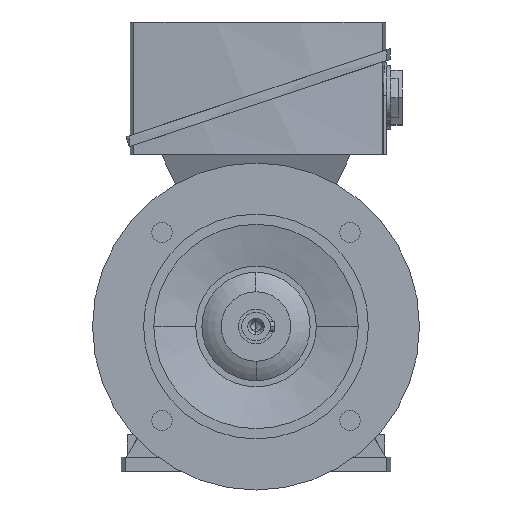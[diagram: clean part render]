
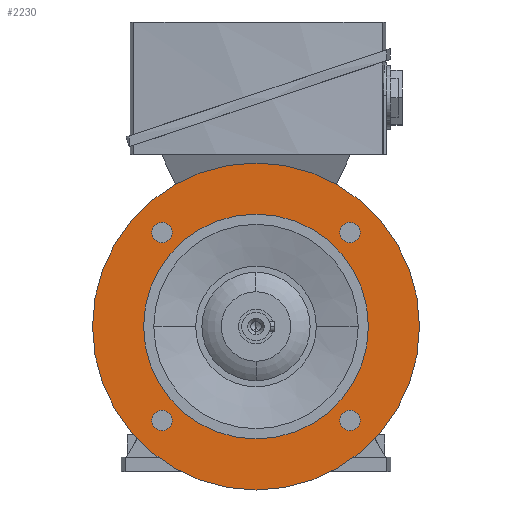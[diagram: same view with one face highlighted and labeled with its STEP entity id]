
A CAD part, left-side view. The second image highlights one B-rep face of the part: STEP entity #2230.
In plain terms, the highlighted planar face has unit normal (-1, 0, 0).
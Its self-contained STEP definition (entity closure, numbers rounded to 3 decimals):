
#2230=ADVANCED_FACE('',(#4529,#4530,#4531,#4532,#4533,#4534),#4535,.T.);
#4529=FACE_BOUND('',#6826,.T.);
#4530=FACE_BOUND('',#6827,.T.);
#4531=FACE_BOUND('',#6828,.T.);
#4532=FACE_BOUND('',#6829,.T.);
#4533=FACE_OUTER_BOUND('',#6830,.T.);
#4534=FACE_BOUND('',#6831,.T.);
#4535=PLANE('',#6832);
#6826=EDGE_LOOP('',(#13738,#13739));
#6827=EDGE_LOOP('',(#13740,#13741));
#6828=EDGE_LOOP('',(#13742,#13743));
#6829=EDGE_LOOP('',(#13744,#13745));
#6830=EDGE_LOOP('',(#13746,#13747));
#6831=EDGE_LOOP('',(#13748,#13749));
#6832=AXIS2_PLACEMENT_3D('',#13750,#13751,#13752);
#13738=ORIENTED_EDGE('',*,*,#16457,.T.);
#13739=ORIENTED_EDGE('',*,*,#13813,.T.);
#13740=ORIENTED_EDGE('',*,*,#16459,.T.);
#13741=ORIENTED_EDGE('',*,*,#13808,.T.);
#13742=ORIENTED_EDGE('',*,*,#16461,.T.);
#13743=ORIENTED_EDGE('',*,*,#13803,.T.);
#13744=ORIENTED_EDGE('',*,*,#16463,.T.);
#13745=ORIENTED_EDGE('',*,*,#13798,.T.);
#13746=ORIENTED_EDGE('',*,*,#13772,.F.);
#13747=ORIENTED_EDGE('',*,*,#16494,.F.);
#13748=ORIENTED_EDGE('',*,*,#13779,.T.);
#13749=ORIENTED_EDGE('',*,*,#16492,.T.);
#13750=CARTESIAN_POINT('',(-23.0,67.5,0.0));
#13751=DIRECTION('',(-1.0,0.0,0.0));
#13752=DIRECTION('',(0.0,-1.0,0.0));
#13772=EDGE_CURVE('',#16499,#16502,#16503,.T.);
#13779=EDGE_CURVE('',#16509,#16513,#16515,.T.);
#13798=EDGE_CURVE('',#16548,#16545,#16549,.T.);
#13803=EDGE_CURVE('',#16557,#16554,#16558,.T.);
#13808=EDGE_CURVE('',#16566,#16563,#16567,.T.);
#13813=EDGE_CURVE('',#16575,#16572,#16576,.T.);
#16457=EDGE_CURVE('',#16572,#16575,#20502,.T.);
#16459=EDGE_CURVE('',#16563,#16566,#20504,.T.);
#16461=EDGE_CURVE('',#16554,#16557,#20506,.T.);
#16463=EDGE_CURVE('',#16545,#16548,#20508,.T.);
#16492=EDGE_CURVE('',#16513,#16509,#20537,.T.);
#16494=EDGE_CURVE('',#16502,#16499,#20539,.T.);
#16499=VERTEX_POINT('',#20544);
#16502=VERTEX_POINT('',#20548);
#16503=CIRCLE('',#20549,80.0);
#16509=VERTEX_POINT('',#20556);
#16513=VERTEX_POINT('',#20561);
#16515=CIRCLE('',#20564,55.0);
#16545=VERTEX_POINT('',#20598);
#16548=VERTEX_POINT('',#20602);
#16549=CIRCLE('',#20603,5.0);
#16554=VERTEX_POINT('',#20609);
#16557=VERTEX_POINT('',#20613);
#16558=CIRCLE('',#20614,5.0);
#16563=VERTEX_POINT('',#20620);
#16566=VERTEX_POINT('',#20624);
#16567=CIRCLE('',#20625,5.0);
#16572=VERTEX_POINT('',#20631);
#16575=VERTEX_POINT('',#20635);
#16576=CIRCLE('',#20636,5.0);
#20502=CIRCLE('',#31311,5.0);
#20504=CIRCLE('',#31313,5.0);
#20506=CIRCLE('',#31315,5.0);
#20508=CIRCLE('',#31317,5.0);
#20537=CIRCLE('',#31360,55.0);
#20539=CIRCLE('',#31362,80.0);
#20544=CARTESIAN_POINT('',(-23.0,80.0,0.0));
#20548=CARTESIAN_POINT('',(-23.0,-80.0,0.));
#20549=AXIS2_PLACEMENT_3D('',#31367,#31368,#31369);
#20556=CARTESIAN_POINT('',(-23.0,55.0,0.0));
#20561=CARTESIAN_POINT('',(-23.0,-55.0,0.));
#20564=AXIS2_PLACEMENT_3D('',#31379,#31380,#31381);
#20598=CARTESIAN_POINT('',(-23.0,-49.497,49.497));
#20602=CARTESIAN_POINT('',(-23.0,-42.426,42.426));
#20603=AXIS2_PLACEMENT_3D('',#31414,#31415,#31416);
#20609=CARTESIAN_POINT('',(-23.0,49.497,49.497));
#20613=CARTESIAN_POINT('',(-23.0,42.426,42.426));
#20614=AXIS2_PLACEMENT_3D('',#31422,#31423,#31424);
#20620=CARTESIAN_POINT('',(-23.0,49.497,-49.497));
#20624=CARTESIAN_POINT('',(-23.0,42.426,-42.426));
#20625=AXIS2_PLACEMENT_3D('',#31430,#31431,#31432);
#20631=CARTESIAN_POINT('',(-23.0,-49.497,-49.497));
#20635=CARTESIAN_POINT('',(-23.0,-42.426,-42.426));
#20636=AXIS2_PLACEMENT_3D('',#31438,#31439,#31440);
#31311=AXIS2_PLACEMENT_3D('',#33896,#33897,#33898);
#31313=AXIS2_PLACEMENT_3D('',#33899,#33900,#33901);
#31315=AXIS2_PLACEMENT_3D('',#33902,#33903,#33904);
#31317=AXIS2_PLACEMENT_3D('',#33905,#33906,#33907);
#31360=AXIS2_PLACEMENT_3D('',#33933,#33934,#33935);
#31362=AXIS2_PLACEMENT_3D('',#33936,#33937,#33938);
#31367=CARTESIAN_POINT('',(-23.0,0.0,0.0));
#31368=DIRECTION('',(1.0,0.0,0.0));
#31369=DIRECTION('',(0.0,1.0,0.0));
#31379=CARTESIAN_POINT('',(-23.0,0.0,0.0));
#31380=DIRECTION('',(1.0,0.0,0.0));
#31381=DIRECTION('',(0.0,1.0,0.0));
#31414=CARTESIAN_POINT('',(-23.0,-45.962,45.962));
#31415=DIRECTION('',(1.0,0.0,-0.0));
#31416=DIRECTION('',(0.0,-0.707,0.707));
#31422=CARTESIAN_POINT('',(-23.0,45.962,45.962));
#31423=DIRECTION('',(1.0,0.0,-0.0));
#31424=DIRECTION('',(0.0,0.707,0.707));
#31430=CARTESIAN_POINT('',(-23.0,45.962,-45.962));
#31431=DIRECTION('',(1.0,-0.0,0.0));
#31432=DIRECTION('',(0.0,0.707,-0.707));
#31438=CARTESIAN_POINT('',(-23.0,-45.962,-45.962));
#31439=DIRECTION('',(1.0,0.0,0.0));
#31440=DIRECTION('',(0.0,-0.707,-0.707));
#33896=CARTESIAN_POINT('',(-23.0,-45.962,-45.962));
#33897=DIRECTION('',(1.0,0.0,0.0));
#33898=DIRECTION('',(0.0,-0.707,-0.707));
#33899=CARTESIAN_POINT('',(-23.0,45.962,-45.962));
#33900=DIRECTION('',(1.0,-0.0,0.0));
#33901=DIRECTION('',(0.0,0.707,-0.707));
#33902=CARTESIAN_POINT('',(-23.0,45.962,45.962));
#33903=DIRECTION('',(1.0,0.0,-0.0));
#33904=DIRECTION('',(0.0,0.707,0.707));
#33905=CARTESIAN_POINT('',(-23.0,-45.962,45.962));
#33906=DIRECTION('',(1.0,0.0,-0.0));
#33907=DIRECTION('',(0.0,-0.707,0.707));
#33933=CARTESIAN_POINT('',(-23.0,0.0,0.0));
#33934=DIRECTION('',(1.0,0.0,0.0));
#33935=DIRECTION('',(0.0,1.0,0.0));
#33936=CARTESIAN_POINT('',(-23.0,0.0,0.0));
#33937=DIRECTION('',(1.0,0.0,0.0));
#33938=DIRECTION('',(0.0,1.0,0.0));
